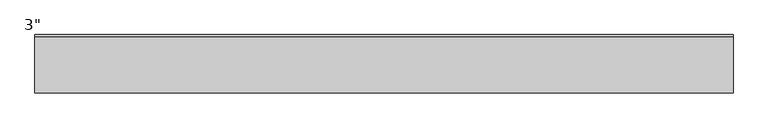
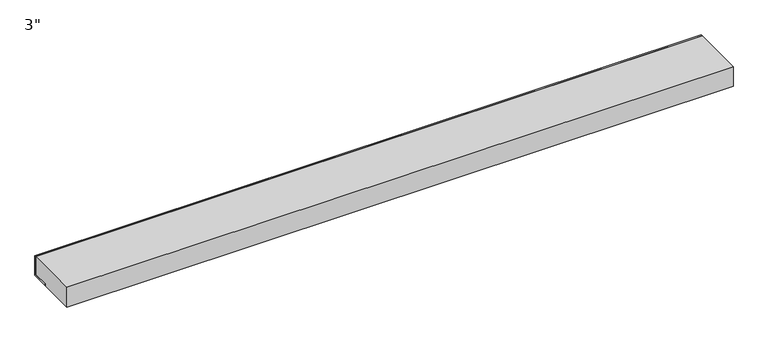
"""IFC4 building model written with IfcOpenShell, lengths in millimetres: proxy geometry."""

from ifc_helpers import new_model, si_unit, frame, origin, place, context, project, spatial, polyline, outline, extrude, source, transform, mapped, element, save


def proxy_c7e97176(model_context):
    return source(origin(), model_context, "Body", "SweptSolid", [
        extrude(outline(polyline([(101.6, 76.2), (101.6, 0.0), (34.925, 0.0), (34.925, 6.35), (95.25, 6.35), (95.25, 76.2), (101.6, 76.2)])), frame((-1219.2, 0.0, 0.0), z_axis=(1.0, 0.0, 0.0), x_axis=(0.0, 1.0, 0.0)), (0.0, 0.0, 1.0), 2438.4),
        extrude(outline(polyline([(-101.6, 0.0), (-101.6, 76.2), (95.25, 76.2), (95.25, 6.35), (34.925, 6.35), (34.925, 0.0), (-101.6, 0.0)])), frame((-1219.2, 0.0, 0.0), z_axis=(1.0, 0.0, 0.0), x_axis=(0.0, 1.0, 0.0)), (0.0, 0.0, 1.0), 2438.4),
    ])


if __name__ == "__main__":
    model = new_model("IFC4")
    model_context = context("Model", 3, world=origin())
    ifc_project = project(units=[si_unit("LENGTHUNIT", "METRE", prefix="MILLI")], contexts=[model_context])
    site = spatial("IfcSite", under=ifc_project)
    building = spatial("IfcBuilding", under=site)
    placement = place(None, origin())
    proxy_shape = proxy_c7e97176(model_context)
    element("IfcBuildingElementProxy", 1, Name="Durabond Generic Model Flexlite Boundary Board : 3\"", ObjectType="Durabond Generic Model Flexlite Boundary Board : 3\"", at=placement, inside=building, context=model_context, shape_type="MappedRepresentation", body=[
        mapped(proxy_shape, transform((0.0, 0.0, 0.0), x_axis=(1.0, 0.0, 0.0), y_axis=(0.0, 1.0, 0.0), z_axis=(0.0, 0.0, 1.0))),
    ])
    save(model, "model.ifc")
